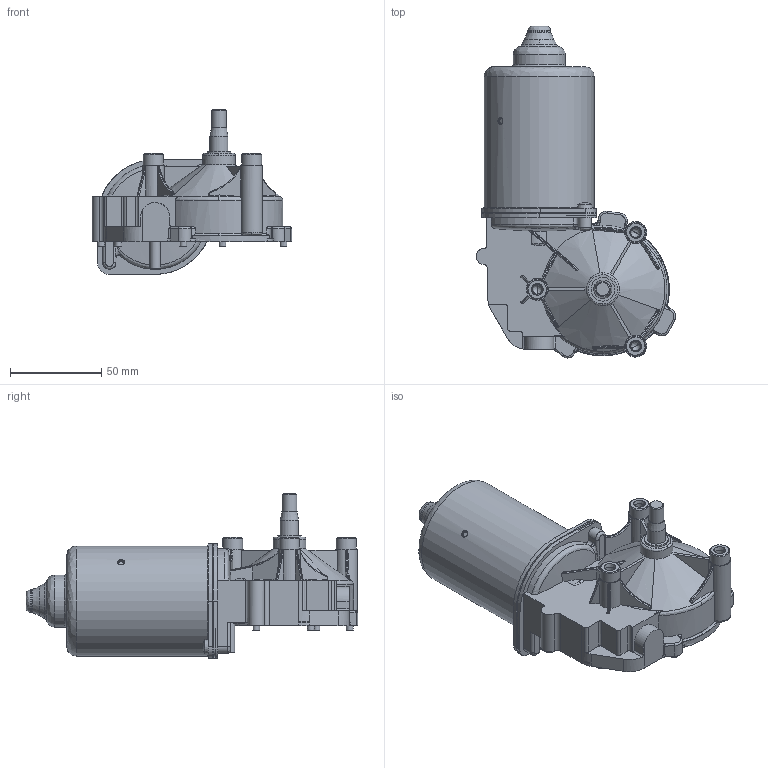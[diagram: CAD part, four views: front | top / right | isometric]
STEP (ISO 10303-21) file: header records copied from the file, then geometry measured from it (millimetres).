
FILE_DESCRIPTION (( 'STEP AP214' ), '1' );
FILE_NAME ('404983.step', '2018-06-28T08:37:44', ( '' ), ( '' ), 'SwSTEP 2.0', 'SolidWorks 2010', '' );
FILE_SCHEMA (( 'AUTOMOTIVE_DESIGN' ));
Length unit declared in the file: millimetre
Products named in the file (3): Motor-DCK35-Left-KGK; Shaft-W305-KGK; 404983
Assembly tree (2 placements, depth 2):
  404983
    Shaft-W305-KGK
    Motor-DCK35-Left-KGK
Bounding box: 109.5 x 182.25 x 90.5 mm (x, y, z)
Volume: 236134.9 mm3; surface area: 77896.1 mm2
Topology: 2 solids, 7 shells, 580 faces, 1660 edges, 1123 vertices
Faces by surface type: plane 201, bspline 174, cylinder 152, cone 53
Full cylindrical faces by diameter (mm): 2.5 x2, 3.4 x2, 3.5 x4, 3.6 x2, 3.8 x4, 3.9 x2, 4 x2, 4.2 x6, 4.4 x3, 4.8 x2, 5.3 x3, 8 x2, 10 x2, 10.3 x1, 11 x3, 12 x3, 12.4 x1, 13 x1, 14 x1, 18 x2, 24.15 x1, 24.4 x1, 28.55 x1, 56 x2, 60.4 x1
Entity records: 35752 total; most frequent: CARTESIAN_POINT 23685, ORIENTED_EDGE 3002, EDGE_CURVE 1501, DIRECTION 1394, VERTEX_POINT 1091, B_SPLINE_CURVE_WITH_KNOTS 1022, EDGE_LOOP 744, FACE_OUTER_BOUND 657
